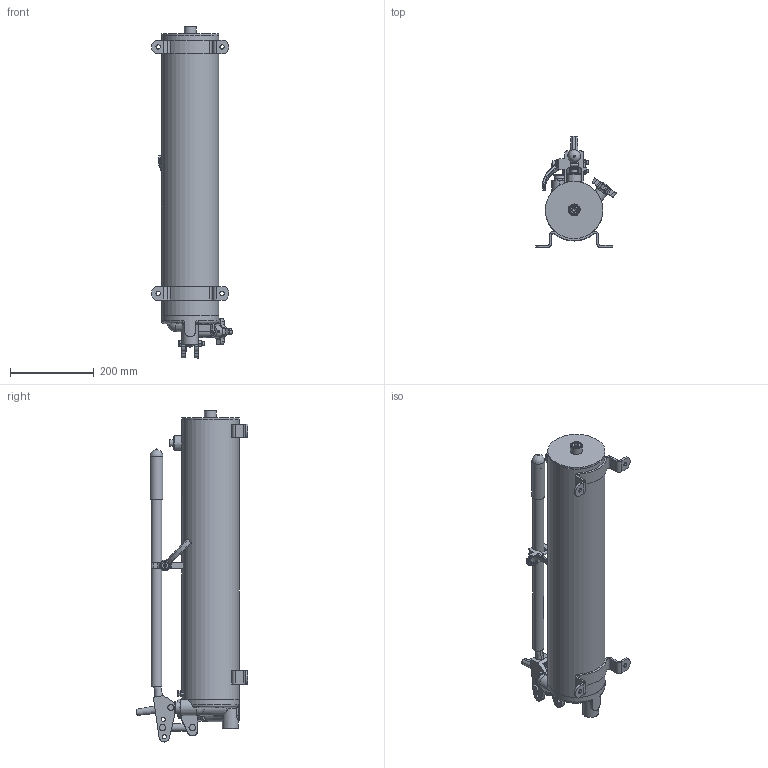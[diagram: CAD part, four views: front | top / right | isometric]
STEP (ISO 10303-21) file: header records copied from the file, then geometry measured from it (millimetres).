
FILE_DESCRIPTION(/* description */ (''),/* implementation_level */ '2;1');
FILE_NAME(/* name */ '\\SRVR-ENG\EngSales\HandPumps\PM-HP-20B.stp',/* time_stamp */ '2014-06-20T08:21:55-05:00',/* author */ ('KneiflD'),/* organization */ (''),/* preprocessor_version */ 'ST-DEVELOPER v15.2',/* originating_system */ 'Autodesk Inventor 2014',/* authorisation */ '');
FILE_SCHEMA (('AUTOMOTIVE_DESIGN { 1 0 10303 214 3 1 1 }'));
Length unit declared in the file: inch
Products named in the file (45): 162100034; 200014408; 162100035; 052100618; 200300211; 180701017; 180901072; 062100654; 090000121; 080600005; 010300003; 180901070; 230001045; 180901069; 270003016; 270003020; 200013922; 190300026; 090000002; 170004150; 180901073; 050400123; 230010331; 170002089; 220000203; 200300202; 190100047; 180901068; 200018003; 170002005; 220001005; 230007501-RING; 180901026; 190300037; 190100013; 180901514; 180901515; 230009003; 200100013; 270002006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
Bounding box: 193.04 x 265.7 x 791.26 mm (x, y, z)
Volume: 2500296.8 mm3; surface area: 959516.9 mm2
Topology: 46 solids, 46 shells, 1069 faces, 2567 edges, 1612 vertices
Faces by surface type: plane 459, cylinder 291, cone 146, bspline 97, torus 62, sphere 14
Full cylindrical faces by diameter (mm): 0.505 x2, 4.762 x3, 4.877 x1, 5.537 x2, 6.35 x5, 6.401 x1, 6.528 x2, 7.798 x3, 7.925 x1, 7.938 x2, 8.334 x2, 8.714 x1, 9.449 x2, 9.493 x3, 9.525 x4, 9.576 x11, 10.084 x2, 10.319 x4, 10.719 x1, 10.996 x2, 11.354 x2, 11.506 x2, 12.116 x1, 13.462 x1, 13.494 x1, 14.097 x2, 14.275 x1, 14.348 x1, 14.529 x2, 15.037 x1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
Entity records: 32832 total; most frequent: CARTESIAN_POINT 11368, DIRECTION 4246, ORIENTED_EDGE 4080, EDGE_CURVE 2040, AXIS2_PLACEMENT_3D 1678, VERTEX_POINT 1393, EDGE_LOOP 1275, ADVANCED_FACE 955
